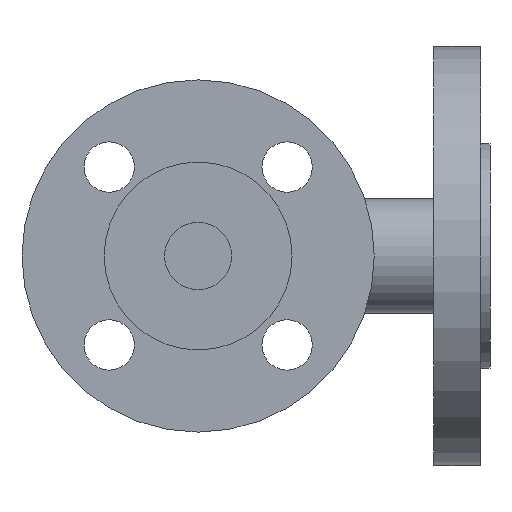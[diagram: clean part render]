
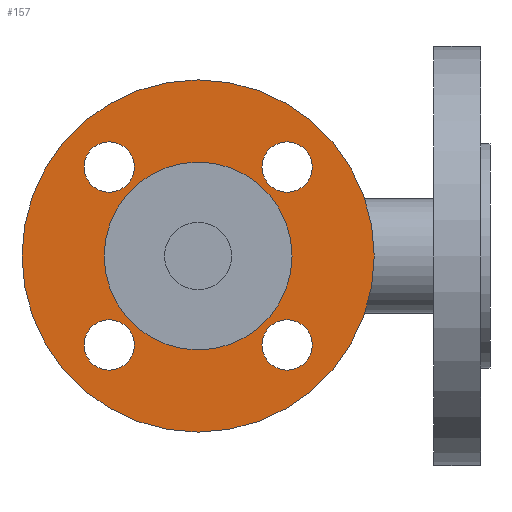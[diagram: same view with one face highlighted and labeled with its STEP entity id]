
A CAD part, front view. The second image highlights one B-rep face of the part: STEP entity #157.
In plain terms, the highlighted planar face has unit normal (0, -1, 0).
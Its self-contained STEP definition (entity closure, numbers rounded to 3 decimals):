
#157=ADVANCED_FACE('',(#766,#767,#768,#769,#770,#771),#765,.T.);
#765=PLANE('',#2599);
#766=FACE_OUTER_BOUND('',#2600,.T.);
#767=FACE_BOUND('',#2601,.T.);
#768=FACE_BOUND('',#2602,.T.);
#769=FACE_BOUND('',#2603,.T.);
#770=FACE_BOUND('',#2604,.T.);
#771=FACE_BOUND('',#2605,.T.);
#2596=CARTESIAN_POINT('',(-100.933,-96.,62.5));
#2597=DIRECTION('',(0.,-1.,0.));
#2598=DIRECTION('',(0.,0.,-1.));
#2599=AXIS2_PLACEMENT_3D('',#2596,#2597,#2598);
#2600=EDGE_LOOP('',(#4804,#4805));
#2601=EDGE_LOOP('',(#4806,#4807));
#2602=EDGE_LOOP('',(#4808,#4809,#4810));
#2603=EDGE_LOOP('',(#4811,#4812));
#2604=EDGE_LOOP('',(#4813,#4814));
#2605=EDGE_LOOP('',(#4815,#4816,#4817));
#4804=ORIENTED_EDGE('',*,*,#5661,.F.);
#4805=ORIENTED_EDGE('',*,*,#5662,.F.);
#4806=ORIENTED_EDGE('',*,*,#5663,.F.);
#4807=ORIENTED_EDGE('',*,*,#5664,.F.);
#4808=ORIENTED_EDGE('',*,*,#5665,.F.);
#4809=ORIENTED_EDGE('',*,*,#5666,.F.);
#4810=ORIENTED_EDGE('',*,*,#5667,.F.);
#4811=ORIENTED_EDGE('',*,*,#5668,.F.);
#4812=ORIENTED_EDGE('',*,*,#5669,.F.);
#4813=ORIENTED_EDGE('',*,*,#5670,.T.);
#4814=ORIENTED_EDGE('',*,*,#5671,.T.);
#4815=ORIENTED_EDGE('',*,*,#5672,.F.);
#4816=ORIENTED_EDGE('',*,*,#5673,.F.);
#4817=ORIENTED_EDGE('',*,*,#5674,.F.);
#5661=EDGE_CURVE('',#6867,#6868,#6869,.T.);
#5662=EDGE_CURVE('',#6868,#6867,#6875,.T.);
#5663=EDGE_CURVE('',#6881,#6882,#6883,.T.);
#5664=EDGE_CURVE('',#6882,#6881,#6889,.T.);
#5665=EDGE_CURVE('',#6895,#6896,#6897,.T.);
#5666=EDGE_CURVE('',#6903,#6895,#6904,.T.);
#5667=EDGE_CURVE('',#6896,#6903,#6910,.T.);
#5668=EDGE_CURVE('',#6916,#6917,#6918,.T.);
#5669=EDGE_CURVE('',#6917,#6916,#6924,.T.);
#5670=EDGE_CURVE('',#6930,#6931,#6932,.T.);
#5671=EDGE_CURVE('',#6931,#6930,#6938,.T.);
#5672=EDGE_CURVE('',#6944,#6945,#6946,.T.);
#5673=EDGE_CURVE('',#6952,#6944,#6953,.T.);
#5674=EDGE_CURVE('',#6945,#6952,#6959,.T.);
#6867=VERTEX_POINT('',#9787);
#6868=VERTEX_POINT('',#9788);
#6869=CIRCLE('',#9792,52.5);
#6875=CIRCLE('',#9796,52.5);
#6881=VERTEX_POINT('',#9797);
#6882=VERTEX_POINT('',#9798);
#6883=CIRCLE('',#9802,7.5);
#6889=CIRCLE('',#9806,7.5);
#6895=VERTEX_POINT('',#9807);
#6896=VERTEX_POINT('',#9808);
#6897=CIRCLE('',#9812,7.5);
#6903=VERTEX_POINT('',#9813);
#6904=CIRCLE('',#9817,7.5);
#6910=CIRCLE('',#9821,7.5);
#6916=VERTEX_POINT('',#9822);
#6917=VERTEX_POINT('',#9823);
#6918=CIRCLE('',#9827,7.5);
#6924=CIRCLE('',#9831,7.5);
#6930=VERTEX_POINT('',#9832);
#6931=VERTEX_POINT('',#9833);
#6932=CIRCLE('',#9837,28.);
#6938=CIRCLE('',#9841,28.);
#6944=VERTEX_POINT('',#9842);
#6945=VERTEX_POINT('',#9843);
#6946=CIRCLE('',#9847,7.5);
#6952=VERTEX_POINT('',#9848);
#6953=CIRCLE('',#9852,7.5);
#6959=CIRCLE('',#9856,7.5);
#9787=CARTESIAN_POINT('',(0.,-96.,-52.5));
#9788=CARTESIAN_POINT('',(0.,-96.,52.5));
#9789=CARTESIAN_POINT('',(0.,-96.,0.));
#9790=DIRECTION('',(0.,1.,0.));
#9791=DIRECTION('',(0.,0.,1.));
#9792=AXIS2_PLACEMENT_3D('',#9789,#9790,#9791);
#9793=CARTESIAN_POINT('',(0.,-96.,0.));
#9794=DIRECTION('',(0.,1.,0.));
#9795=DIRECTION('',(0.,0.,1.));
#9796=AXIS2_PLACEMENT_3D('',#9793,#9794,#9795);
#9797=CARTESIAN_POINT('',(26.517,-96.,-34.017));
#9798=CARTESIAN_POINT('',(26.517,-96.,-19.017));
#9799=CARTESIAN_POINT('',(26.517,-96.,-26.517));
#9800=DIRECTION('',(0.,-1.,0.));
#9801=DIRECTION('',(0.,0.,1.));
#9802=AXIS2_PLACEMENT_3D('',#9799,#9800,#9801);
#9803=CARTESIAN_POINT('',(26.517,-96.,-26.517));
#9804=DIRECTION('',(0.,-1.,0.));
#9805=DIRECTION('',(0.,0.,1.));
#9806=AXIS2_PLACEMENT_3D('',#9803,#9804,#9805);
#9807=CARTESIAN_POINT('',(26.517,-96.,34.017));
#9808=CARTESIAN_POINT('',(19.017,-96.,26.517));
#9809=CARTESIAN_POINT('',(26.517,-96.,26.517));
#9810=DIRECTION('',(0.,-1.,0.));
#9811=DIRECTION('',(-1.,0.,0.));
#9812=AXIS2_PLACEMENT_3D('',#9809,#9810,#9811);
#9813=CARTESIAN_POINT('',(26.517,-96.,19.017));
#9814=CARTESIAN_POINT('',(26.517,-96.,26.517));
#9815=DIRECTION('',(0.,-1.,0.));
#9816=DIRECTION('',(-1.,0.,0.));
#9817=AXIS2_PLACEMENT_3D('',#9814,#9815,#9816);
#9818=CARTESIAN_POINT('',(26.517,-96.,26.517));
#9819=DIRECTION('',(0.,-1.,0.));
#9820=DIRECTION('',(-1.,0.,0.));
#9821=AXIS2_PLACEMENT_3D('',#9818,#9819,#9820);
#9822=CARTESIAN_POINT('',(-26.517,-96.,34.017));
#9823=CARTESIAN_POINT('',(-26.517,-96.,19.017));
#9824=CARTESIAN_POINT('',(-26.517,-96.,26.517));
#9825=DIRECTION('',(0.,-1.,0.));
#9826=DIRECTION('',(0.,0.,-1.));
#9827=AXIS2_PLACEMENT_3D('',#9824,#9825,#9826);
#9828=CARTESIAN_POINT('',(-26.517,-96.,26.517));
#9829=DIRECTION('',(0.,-1.,0.));
#9830=DIRECTION('',(0.,0.,-1.));
#9831=AXIS2_PLACEMENT_3D('',#9828,#9829,#9830);
#9832=CARTESIAN_POINT('',(0.,-96.,28.));
#9833=CARTESIAN_POINT('',(0.,-96.,-28.));
#9834=CARTESIAN_POINT('',(0.,-96.,0.));
#9835=DIRECTION('',(0.,1.,0.));
#9836=DIRECTION('',(0.,0.,1.));
#9837=AXIS2_PLACEMENT_3D('',#9834,#9835,#9836);
#9838=CARTESIAN_POINT('',(0.,-96.,0.));
#9839=DIRECTION('',(0.,1.,0.));
#9840=DIRECTION('',(0.,0.,1.));
#9841=AXIS2_PLACEMENT_3D('',#9838,#9839,#9840);
#9842=CARTESIAN_POINT('',(-26.517,-96.,-34.017));
#9843=CARTESIAN_POINT('',(-19.017,-96.,-26.517));
#9844=CARTESIAN_POINT('',(-26.517,-96.,-26.517));
#9845=DIRECTION('',(0.,-1.,0.));
#9846=DIRECTION('',(1.,0.,0.));
#9847=AXIS2_PLACEMENT_3D('',#9844,#9845,#9846);
#9848=CARTESIAN_POINT('',(-26.517,-96.,-19.017));
#9849=CARTESIAN_POINT('',(-26.517,-96.,-26.517));
#9850=DIRECTION('',(0.,-1.,0.));
#9851=DIRECTION('',(1.,0.,0.));
#9852=AXIS2_PLACEMENT_3D('',#9849,#9850,#9851);
#9853=CARTESIAN_POINT('',(-26.517,-96.,-26.517));
#9854=DIRECTION('',(0.,-1.,0.));
#9855=DIRECTION('',(1.,0.,0.));
#9856=AXIS2_PLACEMENT_3D('',#9853,#9854,#9855);
